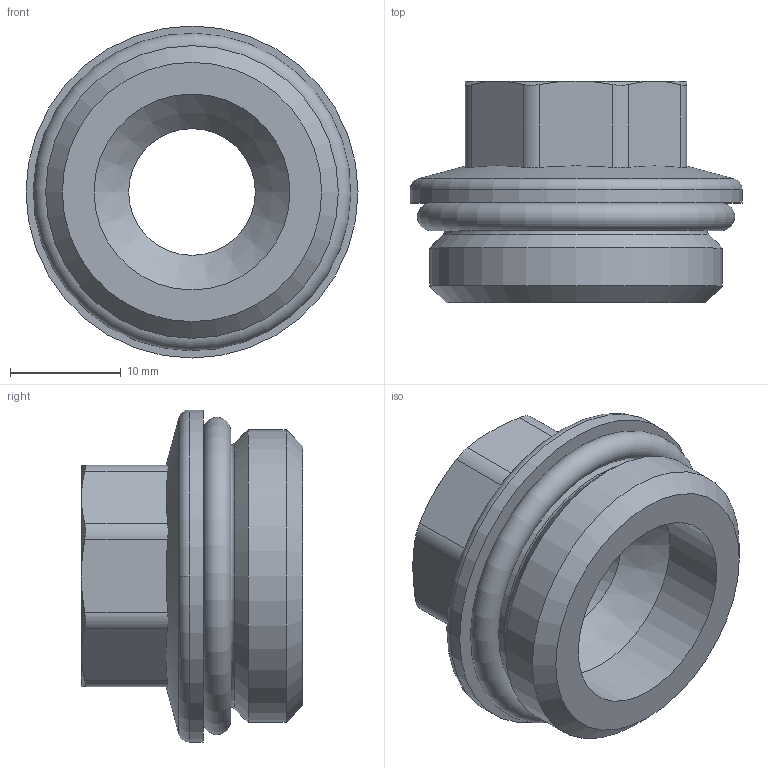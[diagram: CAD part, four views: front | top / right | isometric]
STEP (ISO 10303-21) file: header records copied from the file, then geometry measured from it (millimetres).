
FILE_DESCRIPTION(('STEP AP203'), '1');
FILE_NAME('覆.302638.007.000 捘 - VTr.585.N.0502', '2024-06-10T07:41:48', ('User'), ('Vesta'), 'C3D Converter', 'C3D Toolkit', '');
FILE_SCHEMA(('CONFIG_CONTROL_DESIGN'));
Length unit declared in the file: millimetre
Products named in the file (3): ВР.302638.007.000 СБ; ВР.753128.022
Assembly tree (2 placements, depth 2):
  ВР.302638.007.000 СБ
    ВР.753128.022
    (unnamed)
Bounding box: 30 x 20 x 30 mm (x, y, z)
Volume: 6282.6 mm3; surface area: 4078.6 mm2
Topology: 2 solids, 2 shells, 98 faces, 256 edges, 164 vertices
Faces by surface type: extrusion 34, plane 30, cylinder 14, cone 13, torus 7
Full cylindrical faces by diameter (mm): 11.445 x1, 13.5 x1, 17.7 x1, 23.7 x1, 26.441 x1, 30 x1
Entity records: 3888 total; most frequent: CARTESIAN_POINT 1591, ORIENTED_EDGE 482, DIRECTION 334, EDGE_CURVE 241, VERTEX_POINT 163, B_SPLINE_CURVE_WITH_KNOTS 143, VECTOR 132, EDGE_LOOP 116
